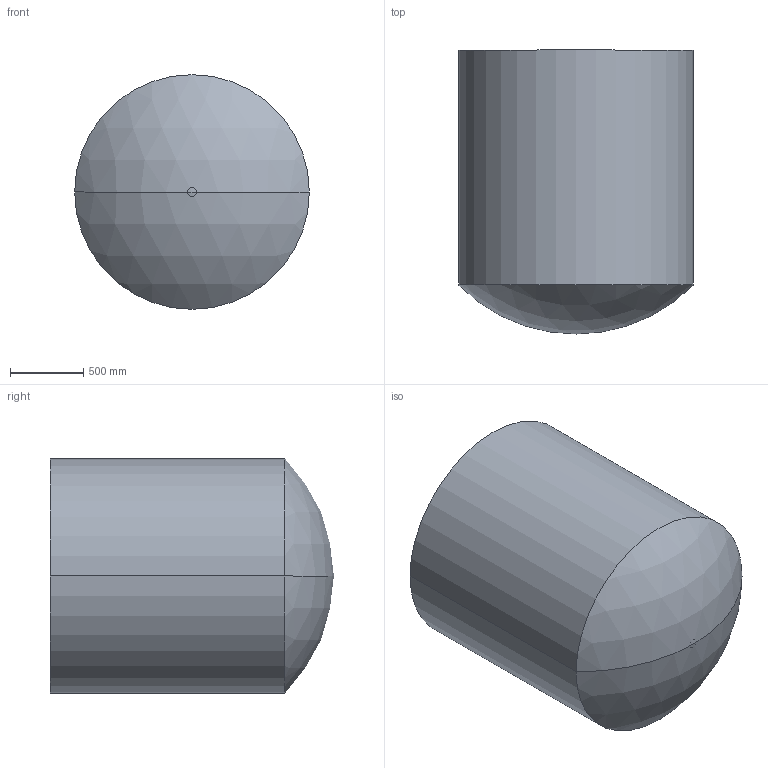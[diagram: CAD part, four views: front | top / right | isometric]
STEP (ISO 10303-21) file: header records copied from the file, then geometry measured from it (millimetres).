
FILE_DESCRIPTION (( 'STEP AP214' ), '1' );
FILE_NAME ('Ensamble biorreactor.STEP', '2025-07-26T05:36:13', ( '' ), ( '' ), 'SwSTEP 2.0', 'SolidWorks 2023', '' );
FILE_SCHEMA (( 'AUTOMOTIVE_DESIGN' ));
Length unit declared in the file: millimetre
Products named in the file (3): Cilindro; Ensamble biorreactor; Eje con impulsores
Assembly tree (2 placements, depth 2):
  Ensamble biorreactor
    Cilindro
    Eje con impulsores
Bounding box: 1600 x 1934.79 x 1600 mm (x, y, z)
Volume: 118624154.6 mm3; surface area: 22789410.7 mm2
Topology: 2 solids, 2 shells, 119 faces, 301 edges, 198 vertices
Faces by surface type: plane 69, cylinder 44, sphere 6
Entity records: 3681 total; most frequent: CARTESIAN_POINT 683, DIRECTION 631, ORIENTED_EDGE 602, EDGE_CURVE 301, AXIS2_PLACEMENT_3D 226, VERTEX_POINT 198, LINE 179, VECTOR 179
